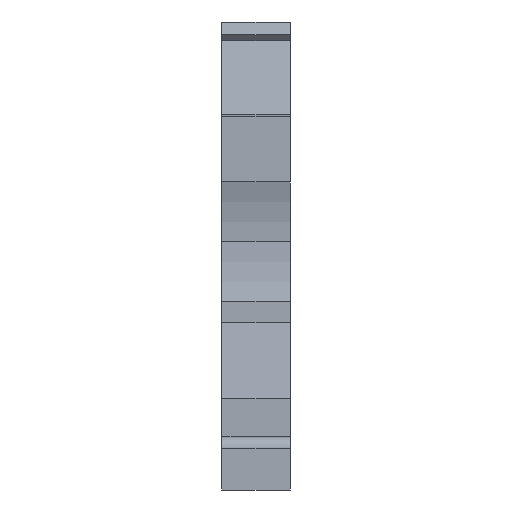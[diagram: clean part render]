
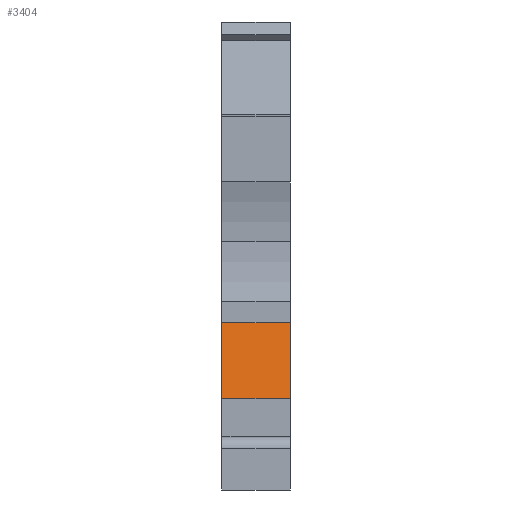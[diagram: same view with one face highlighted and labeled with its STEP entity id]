
A CAD part, front view. The second image highlights one B-rep face of the part: STEP entity #3404.
In plain terms, the highlighted planar face has unit normal (0, -0.985, 0.174).
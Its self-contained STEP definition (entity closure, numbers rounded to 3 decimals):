
#426=CARTESIAN_POINT('',(-0.,3.6,6.862));
#427=VERTEX_POINT('',#426);
#434=CARTESIAN_POINT('',(-0.,4.612,12.6));
#435=VERTEX_POINT('',#434);
#436=CARTESIAN_POINT('',(-0.,3.6,6.862));
#437=DIRECTION('',(-0.,0.174,0.985));
#438=VECTOR('',#437,5.827);
#439=LINE('',#436,#438);
#440=EDGE_CURVE('',#427,#435,#439,.T.);
#2489=CARTESIAN_POINT('',(5.15,4.612,12.6));
#2490=VERTEX_POINT('',#2489);
#2497=CARTESIAN_POINT('',(5.15,3.6,6.862));
#2498=VERTEX_POINT('',#2497);
#2499=CARTESIAN_POINT('',(5.15,3.6,6.862));
#2500=DIRECTION('',(-0.,0.174,0.985));
#2501=VECTOR('',#2500,5.827);
#2502=LINE('',#2499,#2501);
#2503=EDGE_CURVE('',#2498,#2490,#2502,.T.);
#3361=CARTESIAN_POINT('',(-0.,3.6,6.862));
#3362=DIRECTION('',(1.,-0.,0.));
#3363=VECTOR('',#3362,5.15);
#3364=LINE('',#3361,#3363);
#3365=EDGE_CURVE('',#427,#2498,#3364,.T.);
#3388=CARTESIAN_POINT('',(5.15,3.801,8.));
#3389=DIRECTION('',(-0.,-0.985,0.174));
#3390=DIRECTION('',(1.,-0.,0.));
#3391=AXIS2_PLACEMENT_3D('',#3388,#3389,#3390);
#3392=PLANE('',#3391);
#3393=ORIENTED_EDGE('',*,*,#2503,.T.);
#3394=CARTESIAN_POINT('',(5.15,4.612,12.6));
#3395=DIRECTION('',(-1.,0.,-0.));
#3396=VECTOR('',#3395,5.15);
#3397=LINE('',#3394,#3396);
#3398=EDGE_CURVE('',#2490,#435,#3397,.T.);
#3399=ORIENTED_EDGE('',*,*,#3398,.T.);
#3400=ORIENTED_EDGE('',*,*,#440,.F.);
#3401=ORIENTED_EDGE('',*,*,#3365,.T.);
#3402=EDGE_LOOP('',(#3393,#3399,#3400,#3401));
#3403=FACE_BOUND('',#3402,.T.);
#3404=ADVANCED_FACE('',(#3403),#3392,.T.);
